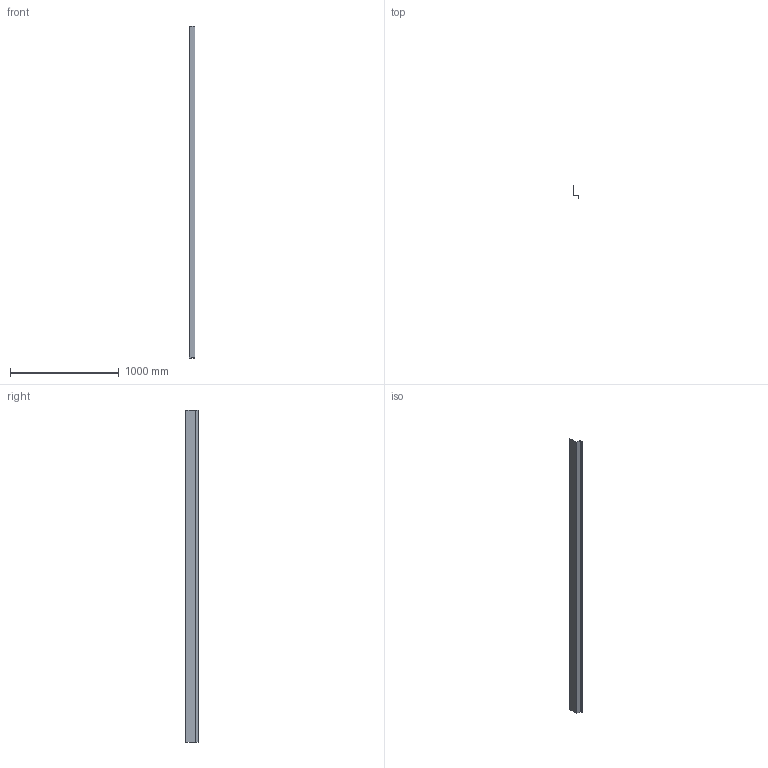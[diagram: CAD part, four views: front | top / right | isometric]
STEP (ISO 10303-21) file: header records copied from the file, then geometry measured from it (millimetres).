
FILE_DESCRIPTION (( 'STEP AP203' ), '1' );
FILE_NAME ('M54A.STEP', '2018-06-16T00:42:25', ( 'Michael Moliner' ), ( '' ), 'SwSTEP 2.0', 'SolidWorks 2018', '' );
FILE_SCHEMA (( 'CONFIG_CONTROL_DESIGN' ));
Length unit declared in the file: inch
Products named in the file (2): M54A
Bounding box: 48.13 x 113.64 x 3048 mm (x, y, z)
Volume: 357240.7 mm3; surface area: 1409624.3 mm2
Topology: 1 solids, 1 shells, 21 faces, 57 edges, 38 vertices
Faces by surface type: plane 14, cylinder 7
Entity records: 822 total; most frequent: CARTESIAN_POINT 118, DIRECTION 117, ORIENTED_EDGE 114, EDGE_CURVE 57, LINE 43, VECTOR 43, VERTEX_POINT 38, AXIS2_PLACEMENT_3D 37
